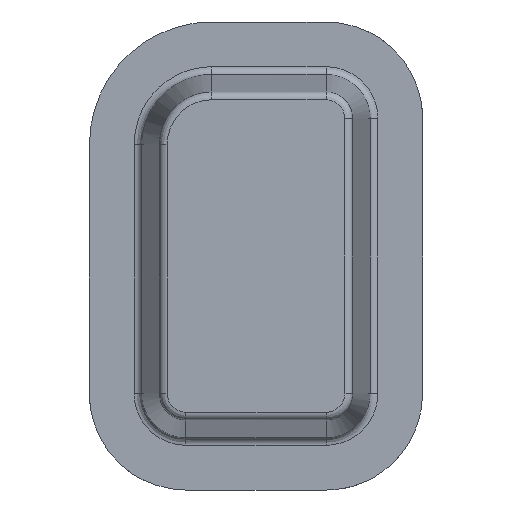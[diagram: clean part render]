
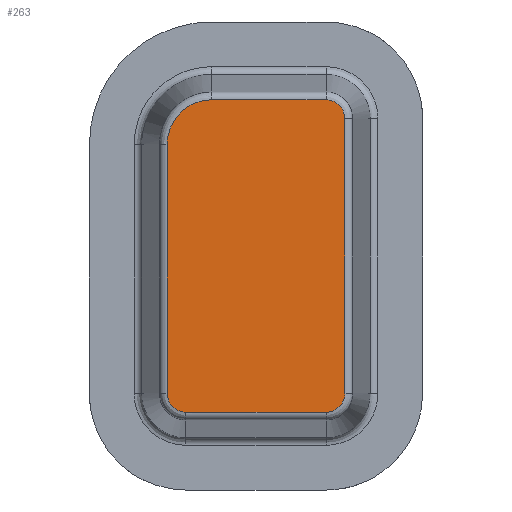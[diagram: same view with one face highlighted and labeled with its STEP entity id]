
A CAD part, front view. The second image highlights one B-rep face of the part: STEP entity #263.
In plain terms, the highlighted planar face has unit normal (0, -1, 0).
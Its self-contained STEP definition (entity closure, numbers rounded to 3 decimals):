
#144=CARTESIAN_POINT('Axis2P3D Location',(38.08,0.,61.92)) ;
#149=CARTESIAN_POINT('Line Origine',(2.749,0.,58.)) ;
#153=CARTESIAN_POINT('Vertex',(2.749,0.,106.)) ;
#155=CARTESIAN_POINT('Vertex',(2.749,0.,10.)) ;
#159=CARTESIAN_POINT('Control Point',(2.749,0.,10.)) ;
#160=CARTESIAN_POINT('Control Point',(2.749,0.,9.039)) ;
#161=CARTESIAN_POINT('Control Point',(2.908,0.,8.077)) ;
#162=CARTESIAN_POINT('Control Point',(3.227,0.,7.153)) ;
#163=CARTESIAN_POINT('Control Point',(4.156,0.,5.444)) ;
#164=CARTESIAN_POINT('Control Point',(5.587,0.,4.126)) ;
#165=CARTESIAN_POINT('Control Point',(6.406,0.,3.591)) ;
#166=CARTESIAN_POINT('Control Point',(7.615,0.,3.065)) ;
#167=CARTESIAN_POINT('Control Point',(8.896,0.,2.821)) ;
#168=CARTESIAN_POINT('Control Point',(9.235,0.,2.777)) ;
#169=CARTESIAN_POINT('Control Point',(9.592,0.,2.752)) ;
#170=CARTESIAN_POINT('Control Point',(9.949,0.,2.749)) ;
#171=CARTESIAN_POINT('Control Point',(9.966,0.,2.749)) ;
#172=CARTESIAN_POINT('Control Point',(9.983,0.,2.749)) ;
#173=CARTESIAN_POINT('Control Point',(10.,0.,2.749)) ;
#174=CARTESIAN_POINT('Vertex',(10.,0.,2.749)) ;
#177=CARTESIAN_POINT('Line Origine',(37.,0.,2.749)) ;
#181=CARTESIAN_POINT('Vertex',(64.,0.,2.749)) ;
#185=CARTESIAN_POINT('Control Point',(64.,0.,2.749)) ;
#186=CARTESIAN_POINT('Control Point',(64.961,0.,2.749)) ;
#187=CARTESIAN_POINT('Control Point',(65.923,0.,2.908)) ;
#188=CARTESIAN_POINT('Control Point',(66.847,0.,3.227)) ;
#189=CARTESIAN_POINT('Control Point',(68.556,0.,4.156)) ;
#190=CARTESIAN_POINT('Control Point',(69.874,0.,5.587)) ;
#191=CARTESIAN_POINT('Control Point',(70.409,0.,6.406)) ;
#192=CARTESIAN_POINT('Control Point',(70.935,0.,7.615)) ;
#193=CARTESIAN_POINT('Control Point',(71.179,0.,8.896)) ;
#194=CARTESIAN_POINT('Control Point',(71.223,0.,9.235)) ;
#195=CARTESIAN_POINT('Control Point',(71.248,0.,9.592)) ;
#196=CARTESIAN_POINT('Control Point',(71.251,0.,9.949)) ;
#197=CARTESIAN_POINT('Control Point',(71.251,0.,9.966)) ;
#198=CARTESIAN_POINT('Control Point',(71.251,0.,9.983)) ;
#199=CARTESIAN_POINT('Control Point',(71.251,0.,10.)) ;
#200=CARTESIAN_POINT('Vertex',(71.251,0.,10.)) ;
#203=CARTESIAN_POINT('Line Origine',(71.251,0.,63.)) ;
#207=CARTESIAN_POINT('Vertex',(71.251,0.,116.)) ;
#211=CARTESIAN_POINT('Control Point',(71.251,0.,116.)) ;
#212=CARTESIAN_POINT('Control Point',(71.251,0.,116.961)) ;
#213=CARTESIAN_POINT('Control Point',(71.092,0.,117.923)) ;
#214=CARTESIAN_POINT('Control Point',(70.773,0.,118.847)) ;
#215=CARTESIAN_POINT('Control Point',(69.844,0.,120.556)) ;
#216=CARTESIAN_POINT('Control Point',(68.413,0.,121.874)) ;
#217=CARTESIAN_POINT('Control Point',(67.594,0.,122.409)) ;
#218=CARTESIAN_POINT('Control Point',(66.385,0.,122.935)) ;
#219=CARTESIAN_POINT('Control Point',(65.104,0.,123.179)) ;
#220=CARTESIAN_POINT('Control Point',(64.765,0.,123.223)) ;
#221=CARTESIAN_POINT('Control Point',(64.408,0.,123.248)) ;
#222=CARTESIAN_POINT('Control Point',(64.051,0.,123.251)) ;
#223=CARTESIAN_POINT('Control Point',(64.034,0.,123.251)) ;
#224=CARTESIAN_POINT('Control Point',(64.017,0.,123.251)) ;
#225=CARTESIAN_POINT('Control Point',(64.,0.,123.251)) ;
#226=CARTESIAN_POINT('Vertex',(64.,0.,123.251)) ;
#229=CARTESIAN_POINT('Line Origine',(42.,0.,123.251)) ;
#233=CARTESIAN_POINT('Vertex',(20.,0.,123.251)) ;
#237=CARTESIAN_POINT('Control Point',(20.,0.,123.251)) ;
#238=CARTESIAN_POINT('Control Point',(18.077,0.,123.251)) ;
#239=CARTESIAN_POINT('Control Point',(16.154,0.,122.983)) ;
#240=CARTESIAN_POINT('Control Point',(14.282,0.,122.447)) ;
#241=CARTESIAN_POINT('Control Point',(10.737,0.,120.869)) ;
#242=CARTESIAN_POINT('Control Point',(7.758,0.,118.383)) ;
#243=CARTESIAN_POINT('Control Point',(6.452,0.,116.939)) ;
#244=CARTESIAN_POINT('Control Point',(4.494,0.,114.046)) ;
#245=CARTESIAN_POINT('Control Point',(3.314,0.,110.769)) ;
#246=CARTESIAN_POINT('Control Point',(2.954,0.,109.26)) ;
#247=CARTESIAN_POINT('Control Point',(2.762,0.,107.686)) ;
#248=CARTESIAN_POINT('Control Point',(2.749,0.,106.11)) ;
#249=CARTESIAN_POINT('Control Point',(2.749,0.,106.074)) ;
#250=CARTESIAN_POINT('Control Point',(2.749,0.,106.037)) ;
#251=CARTESIAN_POINT('Control Point',(2.749,0.,106.)) ;
#145=DIRECTION('Axis2P3D Direction',(0.,-1.,0.)) ;
#146=DIRECTION('Axis2P3D XDirection',(0.054,0.,0.999)) ;
#150=DIRECTION('Vector Direction',(0.,0.,1.)) ;
#178=DIRECTION('Vector Direction',(1.,0.,0.)) ;
#204=DIRECTION('Vector Direction',(0.,0.,1.)) ;
#230=DIRECTION('Vector Direction',(-1.,0.,0.)) ;
#147=AXIS2_PLACEMENT_3D('Plane Axis2P3D',#144,#145,#146) ;
#254=ORIENTED_EDGE('',*,*,#157,.T.) ;
#255=ORIENTED_EDGE('',*,*,#176,.T.) ;
#256=ORIENTED_EDGE('',*,*,#183,.T.) ;
#257=ORIENTED_EDGE('',*,*,#202,.T.) ;
#258=ORIENTED_EDGE('',*,*,#209,.T.) ;
#259=ORIENTED_EDGE('',*,*,#228,.T.) ;
#260=ORIENTED_EDGE('',*,*,#235,.T.) ;
#261=ORIENTED_EDGE('',*,*,#252,.T.) ;
#151=VECTOR('Line Direction',#150,1.) ;
#179=VECTOR('Line Direction',#178,1.) ;
#205=VECTOR('Line Direction',#204,1.) ;
#231=VECTOR('Line Direction',#230,1.) ;
#263=ADVANCED_FACE('base',(#262),#148,.T.) ;
#158=B_SPLINE_CURVE_WITH_KNOTS('',5,(#159,#160,#161,#162,#163,#164,#165,#166,#167,#168,#169,#170,#171,#172,#173),.UNSPECIFIED.,.F.,.U.,(6,3,3,3,6),(31.207,41.71,52.217,55.938,56.123),.UNSPECIFIED.) ;
#184=B_SPLINE_CURVE_WITH_KNOTS('',5,(#185,#186,#187,#188,#189,#190,#191,#192,#193,#194,#195,#196,#197,#198,#199),.UNSPECIFIED.,.F.,.U.,(6,3,3,3,6),(31.207,41.71,52.217,55.938,56.123),.UNSPECIFIED.) ;
#210=B_SPLINE_CURVE_WITH_KNOTS('',5,(#211,#212,#213,#214,#215,#216,#217,#218,#219,#220,#221,#222,#223,#224,#225),.UNSPECIFIED.,.F.,.U.,(6,3,3,3,6),(31.208,41.71,52.218,55.939,56.123),.UNSPECIFIED.) ;
#236=B_SPLINE_CURVE_WITH_KNOTS('',5,(#237,#238,#239,#240,#241,#242,#243,#244,#245,#246,#247,#248,#249,#250,#251),.UNSPECIFIED.,.F.,.U.,(6,3,3,3,6),(43.341,59.766,76.211,89.358,89.672),.UNSPECIFIED.) ;
#157=EDGE_CURVE('',#154,#156,#152,.F.) ;
#176=EDGE_CURVE('',#156,#175,#158,.T.) ;
#183=EDGE_CURVE('',#175,#182,#180,.T.) ;
#202=EDGE_CURVE('',#182,#201,#184,.T.) ;
#209=EDGE_CURVE('',#201,#208,#206,.T.) ;
#228=EDGE_CURVE('',#208,#227,#210,.T.) ;
#235=EDGE_CURVE('',#227,#234,#232,.T.) ;
#252=EDGE_CURVE('',#234,#154,#236,.T.) ;
#253=EDGE_LOOP('',(#254,#255,#256,#257,#258,#259,#260,#261)) ;
#262=FACE_OUTER_BOUND('',#253,.T.) ;
#152=LINE('Line',#149,#151) ;
#180=LINE('Line',#177,#179) ;
#206=LINE('Line',#203,#205) ;
#232=LINE('Line',#229,#231) ;
#148=PLANE('',#147) ;
#154=VERTEX_POINT('',#153) ;
#156=VERTEX_POINT('',#155) ;
#175=VERTEX_POINT('',#174) ;
#182=VERTEX_POINT('',#181) ;
#201=VERTEX_POINT('',#200) ;
#208=VERTEX_POINT('',#207) ;
#227=VERTEX_POINT('',#226) ;
#234=VERTEX_POINT('',#233) ;
